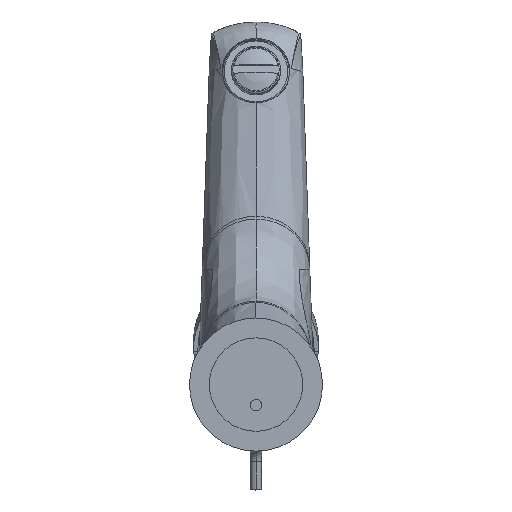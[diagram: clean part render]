
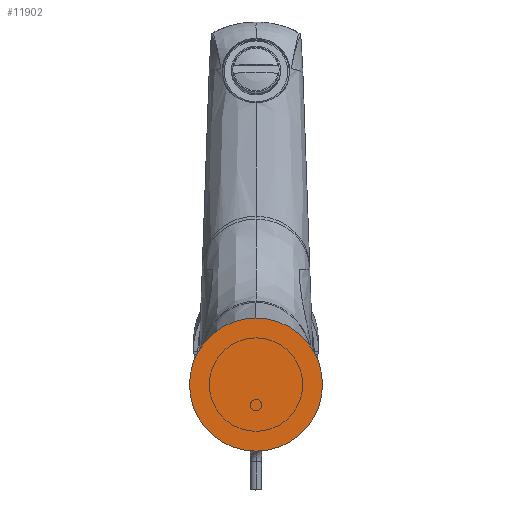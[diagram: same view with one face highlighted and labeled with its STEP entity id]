
A CAD part, front view. The second image highlights one B-rep face of the part: STEP entity #11902.
In plain terms, the highlighted planar face has unit normal (0, -1, 0).
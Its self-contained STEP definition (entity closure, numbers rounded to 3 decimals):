
#1256=CARTESIAN_POINT('',(0.,-5.,-3.25));
#1257=DIRECTION('',(0.,1.,0.));
#1258=DIRECTION('',(1.,0.,0.));
#1259=AXIS2_PLACEMENT_3D('',#1256,#1257,#1258);
#1270=CARTESIAN_POINT('',(0.,-5.,-3.25));
#1271=DIRECTION('',(0.,-1.,0.));
#1272=DIRECTION('',(1.,0.,0.));
#1273=AXIS2_PLACEMENT_3D('',#1270,#1271,#1272);
#9519=CARTESIAN_POINT('',(24.,-5.,-3.25));
#9520=CARTESIAN_POINT('',(-24.,-5.,-3.25));
#9521=VERTEX_POINT('',#9519);
#9522=VERTEX_POINT('',#9520);
#11893=CARTESIAN_POINT('',(0.,-5.,-3.25));
#11894=DIRECTION('',(0.,1.,0.));
#11895=DIRECTION('',(1.,0.,0.));
#11896=AXIS2_PLACEMENT_3D('',#11893,#11894,#11895);
#11897=PLANE('',#11896);
#11898=ORIENTED_EDGE('',*,*,#11887,.F.);
#11899=ORIENTED_EDGE('',*,*,#11873,.T.);
#11900=EDGE_LOOP('',(#11898,#11899));
#11901=FACE_OUTER_BOUND('',#11900,.F.);
#11902=ADVANCED_FACE('',(#11901),#11897,.F.);
#1260=CIRCLE('',#1259,24.);
#1274=CIRCLE('',#1273,24.);
#11873=EDGE_CURVE('',#9521,#9522,#1260,.T.);
#11887=EDGE_CURVE('',#9521,#9522,#1274,.T.);
